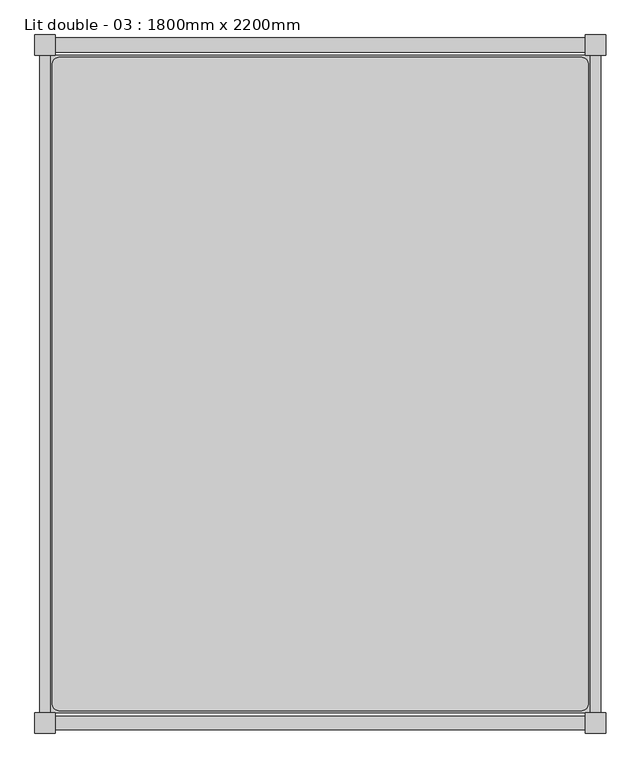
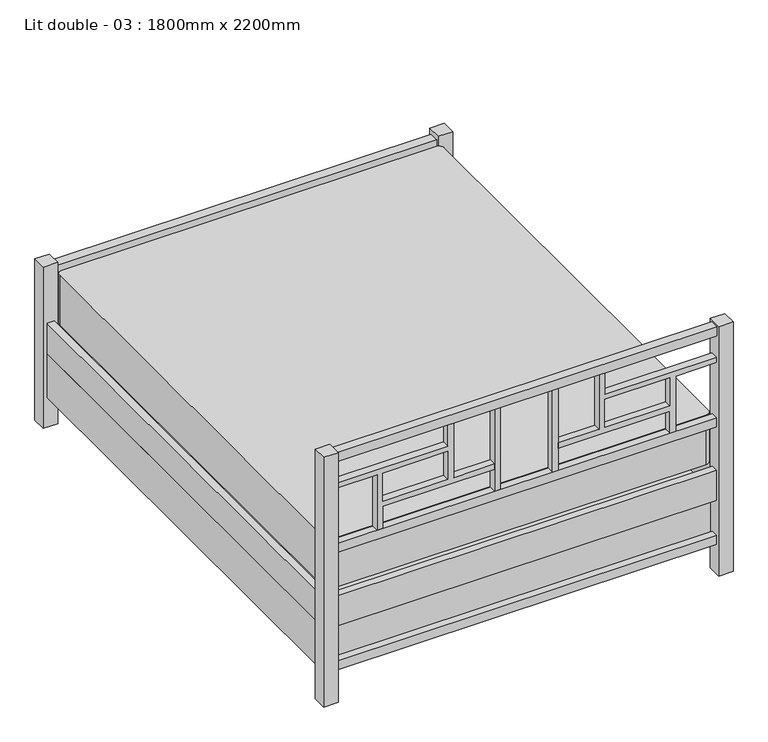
"""IFC4 building model written with IfcOpenShell, lengths in millimetres: furniture geometry, Lit double - 03 : 1800mm x 2200mm."""

from ifc_helpers import new_model, si_unit, point, frame, frame_2d, origin, origin_with_axes, place, context, project, spatial, polyline, circle_curve, trimmed, segment, composite_curve, outline, extrude, source, transform, mapped, element, save


def lit_double_03_1800mm_x_2200mm_80221213(model_context):
    return source(origin(), model_context, "Body", "SweptSolid", [
        extrude(outline(polyline([(836.5, 2146.025), (-836.5, 2146.025), (-836.5, 2190.475), (836.5, 2190.475), (836.5, 2146.025)])), frame((0.0, 0.0, 685.8), z_axis=(0.0, 0.0, 1.0), x_axis=(1.0, 0.0, 0.0)), (0.0, 0.0, 1.0), 41.275),
        extrude(outline(composite_curve([segment(trimmed(circle_curve(frame_2d((820.625, 2104.75)), 25.4), [point((820.625, 2130.15))], [point((846.025, 2104.75))], False, "CARTESIAN"), True, "CONTINUOUS"), segment(polyline([(846.025, 2104.75), (846.025, 95.25)]), True, "CONTINUOUS"), segment(trimmed(circle_curve(frame_2d((820.625, 95.25)), 25.4), [point((846.025, 95.25))], [point((820.625, 69.85))], False, "CARTESIAN"), True, "CONTINUOUS"), segment(polyline([(820.625, 69.85), (-820.625, 69.85)]), True, "CONTINUOUS"), segment(trimmed(circle_curve(frame_2d((-820.625, 95.25)), 25.4), [point((-820.625, 69.85))], [point((-846.025, 95.25))], False, "CARTESIAN"), True, "CONTINUOUS"), segment(polyline([(-846.025, 95.25), (-846.025, 2104.75)]), True, "CONTINUOUS"), segment(trimmed(circle_curve(frame_2d((-820.625, 2104.75)), 25.4), [point((-846.025, 2104.75))], [point((-820.625, 2130.15))], False, "CARTESIAN"), True, "CONTINUOUS"), segment(polyline([(-820.625, 2130.15), (820.625, 2130.15)]), True, "CONTINUOUS")], self_intersect=False)), frame((0.0, 0.0, 482.6), z_axis=(0.0, 0.0, 1.0), x_axis=(1.0, 0.0, 0.0)), (0.0, 0.0, 1.0), 228.6),
        extrude(outline(polyline([(836.5, 52.3875), (836.5, 11.1125), (-836.5, 11.1125), (-836.5, 52.3875), (836.5, 52.3875)])), frame((0.0, 0.0, 1111.25), z_axis=(0.0, 0.0, 1.0), x_axis=(1.0, 0.0, 0.0)), (0.0, 0.0, 1.0), 41.275),
        extrude(outline(polyline([(852.375, 63.5), (852.375, 2136.5), (884.125, 2136.5), (884.125, 63.5), (852.375, 63.5)])), frame((0.0, 0.0, 342.9), z_axis=(0.0, 0.0, 1.0), x_axis=(1.0, 0.0, 0.0)), (0.0, 0.0, 1.0), 139.7),
        extrude(outline(polyline([(-852.375, 63.5), (-884.125, 63.5), (-884.125, 2136.5), (-852.375, 2136.5), (-852.375, 63.5)])), frame((0.0, 0.0, 342.9), z_axis=(0.0, 0.0, 1.0), x_axis=(1.0, 0.0, 0.0)), (0.0, 0.0, 1.0), 139.7),
        extrude(outline(polyline([(836.5, 0.0), (836.5, 63.5), (900.0, 63.5), (900.0, 0.0), (836.5, 0.0)])), origin_with_axes(), (0.0, 0.0, 1.0), 1160.4625),
        extrude(outline(polyline([(-836.5, 0.0), (-900.0, 0.0), (-900.0, 63.5), (-836.5, 63.5), (-836.5, 0.0)])), origin_with_axes(), (0.0, 0.0, 1.0), 1160.4625),
        extrude(outline(polyline([(-836.5, 2200.0), (-836.5, 2136.5), (-900.0, 2136.5), (-900.0, 2200.0), (-836.5, 2200.0)])), origin_with_axes(), (0.0, 0.0, 1.0), 749.3),
        extrude(outline(polyline([(836.5, 2200.0), (900.0, 2200.0), (900.0, 2136.5), (836.5, 2136.5), (836.5, 2200.0)])), origin_with_axes(), (0.0, 0.0, 1.0), 749.3),
        extrude(outline(polyline([(1009.65, 345.1), (1111.25, 345.1), (1111.25, 319.7), (854.075, 319.7), (854.075, 139.7), (828.675, 139.7), (828.675, 631.1), (727.075, 631.1), (727.075, 656.5), (984.25, 656.5), (984.25, 836.5), (1009.65, 836.5), (1009.65, 345.1)]), holes=[polyline([(854.075, 345.1), (984.25, 345.1), (984.25, 631.1), (854.075, 631.1), (854.075, 345.1)])]), frame((0.0, 15.875, 0.0), z_axis=(0.0, 1.0, 0.0), x_axis=(0.0, 0.0, 1.0)), (0.0, 0.0, 1.0), 31.75),
        extrude(outline(polyline([(1009.65, -345.1), (1009.65, -836.5), (984.25, -836.5), (984.25, -656.5), (727.075, -656.5), (727.075, -631.1), (828.675, -631.1), (828.675, -139.7), (854.075, -139.7), (854.075, -319.7), (1111.25, -319.7), (1111.25, -345.1), (1009.65, -345.1)]), holes=[polyline([(854.075, -345.1), (854.075, -631.1), (984.25, -631.1), (984.25, -345.1), (854.075, -345.1)])]), frame((0.0, 15.875, 0.0), z_axis=(0.0, 1.0, 0.0), x_axis=(0.0, 0.0, 1.0)), (0.0, 0.0, 1.0), 31.75),
        extrude(outline(polyline([(-114.3, 15.875), (-139.7, 15.875), (-139.7, 47.625), (-114.3, 47.625), (-114.3, 15.875)])), frame((0.0, 0.0, 727.075), z_axis=(0.0, 0.0, 1.0), x_axis=(1.0, 0.0, 0.0)), (0.0, 0.0, 1.0), 384.175),
        extrude(outline(polyline([(114.3, 15.875), (114.3, 47.625), (139.7, 47.625), (139.7, 15.875), (114.3, 15.875)])), frame((0.0, 0.0, 727.075), z_axis=(0.0, 0.0, 1.0), x_axis=(1.0, 0.0, 0.0)), (0.0, 0.0, 1.0), 384.175),
        extrude(outline(polyline([(-114.3, 2190.475), (-114.3, 2146.025), (-139.7, 2146.025), (-139.7, 2190.475), (-114.3, 2190.475)])), frame((0.0, 0.0, 482.6), z_axis=(0.0, 0.0, 1.0), x_axis=(1.0, 0.0, 0.0)), (0.0, 0.0, 1.0), 203.2),
        extrude(outline(polyline([(114.3, 2190.475), (139.7, 2190.475), (139.7, 2146.025), (114.3, 2146.025), (114.3, 2190.475)])), frame((0.0, 0.0, 482.6), z_axis=(0.0, 0.0, 1.0), x_axis=(1.0, 0.0, 0.0)), (0.0, 0.0, 1.0), 203.2),
        extrude(outline(polyline([(-114.3, 2190.475), (-114.3, 2146.025), (-139.7, 2146.025), (-139.7, 2190.475), (-114.3, 2190.475)])), frame((0.0, 0.0, 180.975), z_axis=(0.0, 0.0, 1.0), x_axis=(1.0, 0.0, 0.0)), (0.0, 0.0, 1.0), 161.925),
        extrude(outline(polyline([(114.3, 2190.475), (139.7, 2190.475), (139.7, 2146.025), (114.3, 2146.025), (114.3, 2190.475)])), frame((0.0, 0.0, 180.975), z_axis=(0.0, 0.0, 1.0), x_axis=(1.0, 0.0, 0.0)), (0.0, 0.0, 1.0), 161.925),
        extrude(outline(polyline([(884.125, 2136.5), (884.125, 63.5), (-884.125, 63.5), (-884.125, 2136.5), (884.125, 2136.5)])), frame((0.0, 0.0, 139.7), z_axis=(0.0, 0.0, 1.0), x_axis=(1.0, 0.0, 0.0)), (0.0, 0.0, 1.0), 203.2),
        extrude(outline(polyline([(836.5, 47.625), (836.5, 15.875), (-836.5, 15.875), (-836.5, 47.625), (836.5, 47.625)])), frame((0.0, 0.0, 685.8), z_axis=(0.0, 0.0, 1.0), x_axis=(1.0, 0.0, 0.0)), (0.0, 0.0, 1.0), 41.275),
        extrude(outline(polyline([(836.5, 47.625), (836.5, 15.875), (-836.5, 15.875), (-836.5, 47.625), (836.5, 47.625)])), frame((0.0, 0.0, 139.7), z_axis=(0.0, 0.0, 1.0), x_axis=(1.0, 0.0, 0.0)), (0.0, 0.0, 1.0), 41.275),
        extrude(outline(polyline([(836.5, 2190.475), (836.5, 2146.025), (-836.5, 2146.025), (-836.5, 2190.475), (836.5, 2190.475)])), frame((0.0, 0.0, 139.7), z_axis=(0.0, 0.0, 1.0), x_axis=(1.0, 0.0, 0.0)), (0.0, 0.0, 1.0), 41.275),
        extrude(outline(polyline([(836.5, 2146.025), (-836.5, 2146.025), (-836.5, 2190.475), (836.5, 2190.475), (836.5, 2146.025)])), frame((0.0, 0.0, 342.9), z_axis=(0.0, 0.0, 1.0), x_axis=(1.0, 0.0, 0.0)), (0.0, 0.0, 1.0), 139.7),
        extrude(outline(polyline([(836.5, 47.625), (836.5, 15.875), (-836.5, 15.875), (-836.5, 47.625), (836.5, 47.625)])), frame((0.0, 0.0, 342.9), z_axis=(0.0, 0.0, 1.0), x_axis=(1.0, 0.0, 0.0)), (0.0, 0.0, 1.0), 139.7),
    ])


if __name__ == "__main__":
    model = new_model("IFC4")
    model_context = context("Model", 3, world=origin())
    ifc_project = project(units=[si_unit("LENGTHUNIT", "METRE", prefix="MILLI")], contexts=[model_context])
    site = spatial("IfcSite", under=ifc_project)
    building = spatial("IfcBuilding", under=site)
    placement = place(None, origin())
    lit_double_03_1800mm_x_2200mm_shape = lit_double_03_1800mm_x_2200mm_80221213(model_context)
    element("IfcFurniture", 1, ObjectType="Lit double - 03 : 1800mm x 2200mm", at=placement, inside=building, context=model_context, shape_type="MappedRepresentation", body=[
        mapped(lit_double_03_1800mm_x_2200mm_shape, transform((0.0, 0.0, 0.0), x_axis=(1.0, 0.0, 0.0), y_axis=(0.0, 1.0, 0.0), z_axis=(0.0, 0.0, 1.0))),
    ])
    save(model, "model.ifc")
